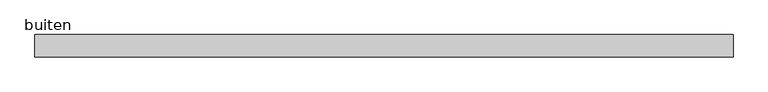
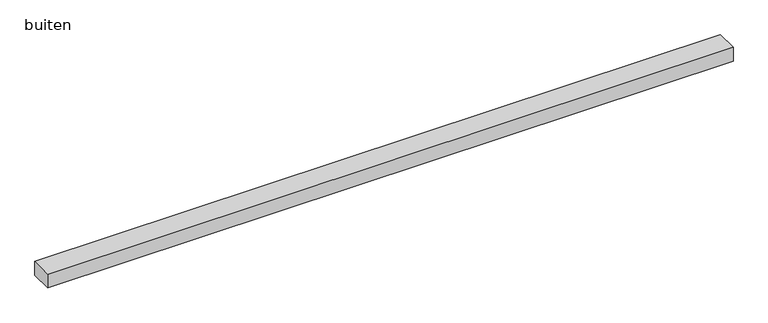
"""IFC4 building model written with IfcOpenShell, lengths in millimetres: proxy geometry, RBS_3-_GM_pui_onderdorpel_SH : buiten."""

from ifc_helpers import new_model, si_unit, origin, origin_with_axes, place, context, project, spatial, polyline, outline, extrude, source, transform, mapped, element, save


def buiten_c3ad88d7(model_context):
    return source(origin(), model_context, "Body", "SweptSolid", [
        extrude(outline(polyline([(1875.0, 60.0), (1875.0, -60.0), (-1875.0, -60.0), (-1875.0, 60.0), (1875.0, 60.0)])), origin_with_axes(), (0.0, 0.0, 1.0), 80.0),
    ])


if __name__ == "__main__":
    model = new_model("IFC4")
    model_context = context("Model", 3, world=origin())
    ifc_project = project(units=[si_unit("LENGTHUNIT", "METRE", prefix="MILLI")], contexts=[model_context])
    site = spatial("IfcSite", under=ifc_project)
    building = spatial("IfcBuilding", under=site)
    placement = place(None, origin())
    buiten_shape = buiten_c3ad88d7(model_context)
    element("IfcBuildingElementProxy", 1, Name="RBS_3-_GM_pui_onderdorpel_SH : buiten", ObjectType="RBS_3-_GM_pui_onderdorpel_SH : buiten", at=placement, inside=building, context=model_context, shape_type="MappedRepresentation", body=[
        mapped(buiten_shape, transform((0.0, 0.0, 0.0), x_axis=(1.0, 0.0, 0.0), y_axis=(0.0, 1.0, 0.0), z_axis=(0.0, 0.0, 1.0))),
    ])
    save(model, "model.ifc")
